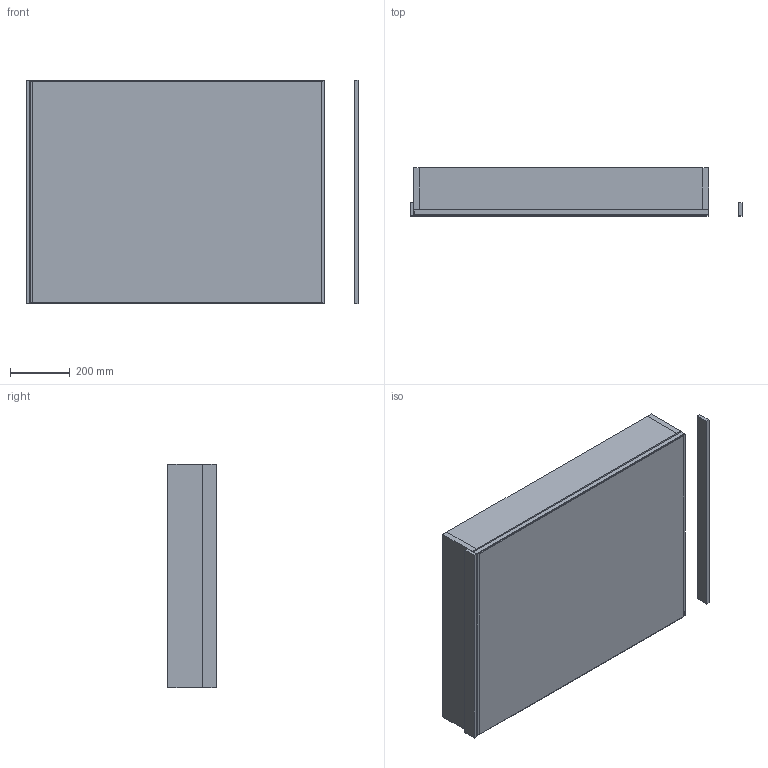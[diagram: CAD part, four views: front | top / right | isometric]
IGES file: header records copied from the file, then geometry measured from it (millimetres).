
Start section: Data from Parasolid IGES Translator 19.0.9, Copyright(c) 2006 Siemens PL M Software. All Rights Reserved.
Global section: file name: noorth-mirror-H 75 D 4,5-16 W 99_9146.igs; native system: By Siemens PLM Incorporated; preprocessor: XPlus GENERIC/IGES 19.0.9; author: Noname; organization: Noname; date: 20200519.112743; units: metre
Bounding box: 1113.82 x 162 x 750 mm (x, y, z)
Volume: 26354800.9 mm3; surface area: 5725932 mm2
Topology: 10 solids, 10 shells, 84 faces, 168 edges, 104 vertices
Faces by surface type: plane 84
